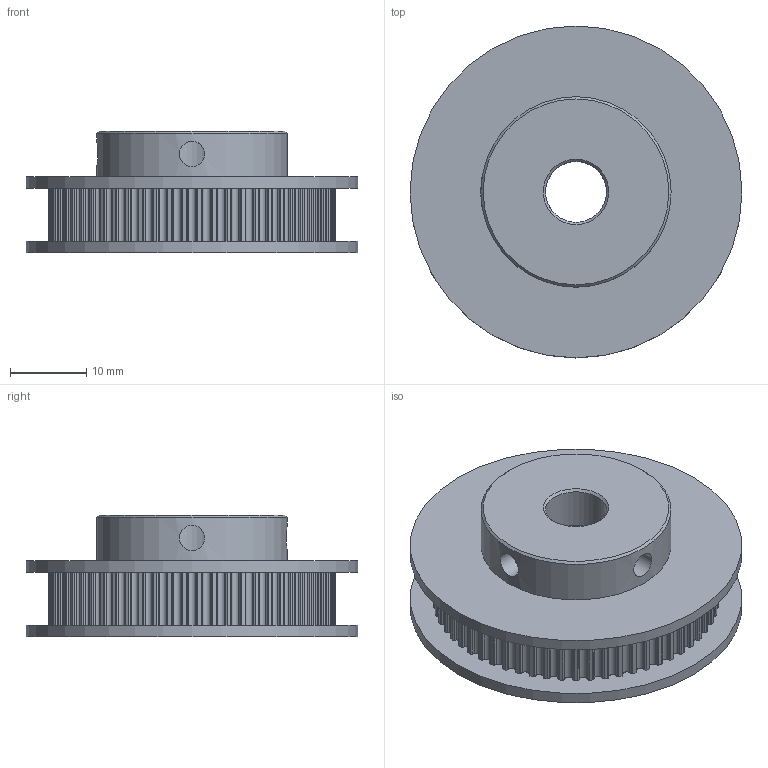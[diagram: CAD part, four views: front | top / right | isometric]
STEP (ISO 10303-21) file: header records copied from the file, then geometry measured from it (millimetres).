
FILE_DESCRIPTION(/* description */ ('','CAx-IF Rec.Pracs.---Representation and Presentation of Product Manufacturing Information (PMI)---4.0---2014-10-13'),/* implementation_level */ '2;1');
FILE_NAME(/* name */ 'GT2_60T_8mm-Bore_6mm-Belt v2.step',/* time_stamp */ '2025-01-11T10:37:02-08:00',/* author */ (''),/* organization */ (''),/* preprocessor_version */ 'ST-DEVELOPER v20',/* originating_system */ 'Autodesk Translation Framework v13.20.0.188',/* authorisation */ '');
FILE_SCHEMA (('AP242_MANAGED_MODEL_BASED_3D_ENGINEERING_MIM_LF { 1 0 10303 442 1 1 4 }'));
Length unit declared in the file: millimetre
Products named in the file (2): GT2_60T_8mm-Bore_6mm-Belt; GT2 Timing Pulley v2 v1
Assembly tree (1 placements, depth 2):
  GT2_60T_8mm-Bore_6mm-Belt
    GT2 Timing Pulley v2 v1
Bounding box: 43.6 x 43.6 x 16 mm (x, y, z)
Volume: 13969.6 mm3; surface area: 6316.1 mm2
Topology: 1 solids, 1 shells, 378 faces, 1111 edges, 739 vertices
Faces by surface type: cylinder 367, plane 6, cone 4, bspline 1
Full cylindrical faces by diameter (mm): 3.332 x2, 8 x2, 25 x1, 43.6 x2
Entity records: 13334 total; most frequent: DIRECTION 2600, CARTESIAN_POINT 2477, ORIENTED_EDGE 2222, AXIS2_PLACEMENT_3D 1114, EDGE_CURVE 1111, VERTEX_POINT 739, CIRCLE 734, EDGE_LOOP 388
